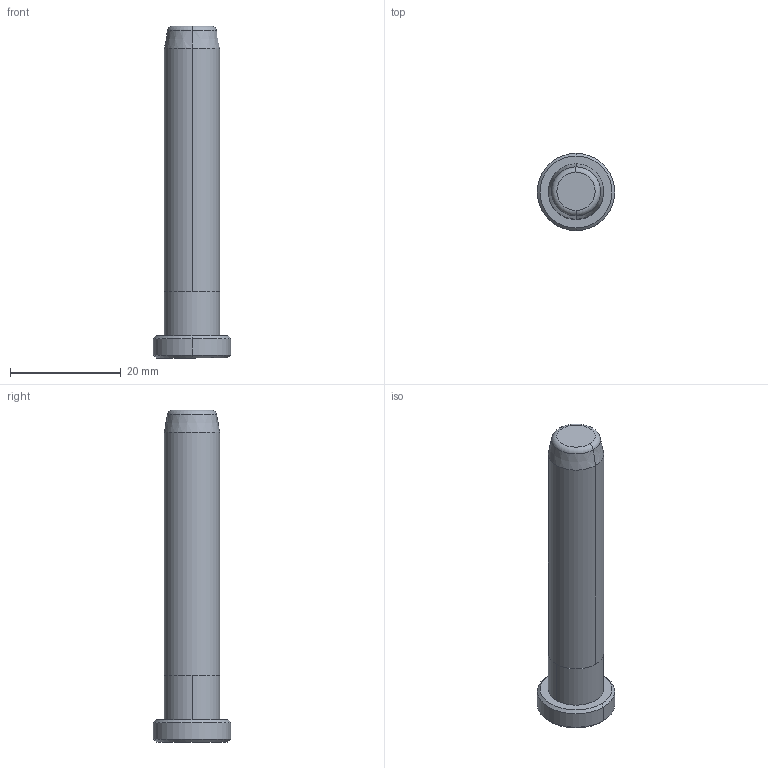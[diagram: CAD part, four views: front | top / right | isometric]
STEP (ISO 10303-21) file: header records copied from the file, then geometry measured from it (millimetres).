
FILE_DESCRIPTION((''),'2;1');
FILE_NAME('B80810060','2018-01-06T',('MANU'),(''),'PRO/ENGINEER BY PARAMETRIC TECHNOLOGY CORPORATION, 2012130','PRO/ENGINEER BY PARAMETRIC TECHNOLOGY CORPORATION, 2012130','');
FILE_SCHEMA(('CONFIG_CONTROL_DESIGN'));
Length unit declared in the file: millimetre
Products named in the file (1): B80810060
Bounding box: 14 x 14 x 60 mm (x, y, z)
Volume: 4959.9 mm3; surface area: 2181.6 mm2
Topology: 1 solids, 1 shells, 18 faces, 34 edges, 20 vertices
Faces by surface type: cone 6, cylinder 6, plane 4, torus 2
Entity records: 494 total; most frequent: DIRECTION 92, CARTESIAN_POINT 72, ORIENTED_EDGE 68, AXIS2_PLACEMENT_3D 40, EDGE_CURVE 34, CIRCLE 22, VERTEX_POINT 20, EDGE_LOOP 20
